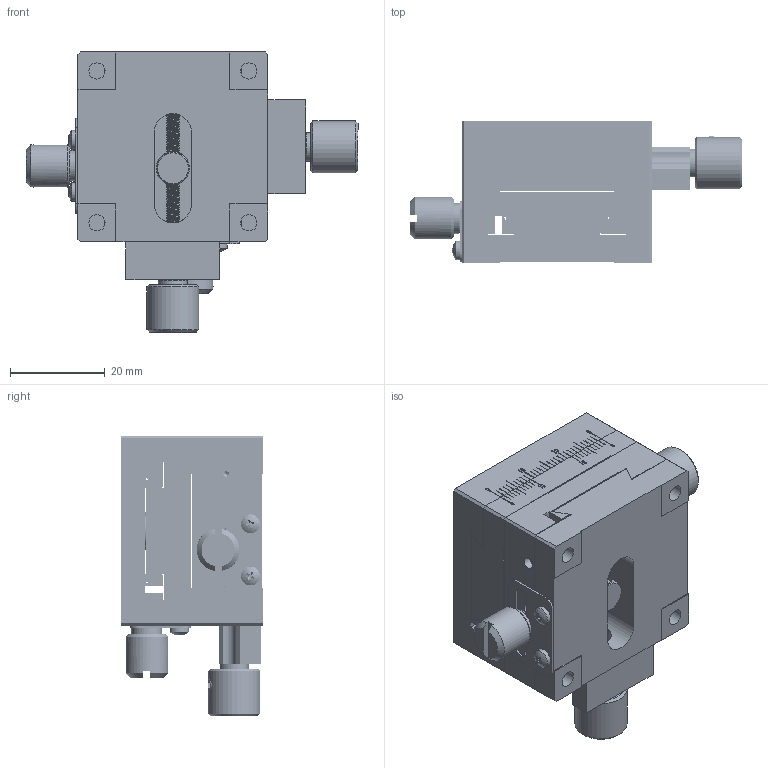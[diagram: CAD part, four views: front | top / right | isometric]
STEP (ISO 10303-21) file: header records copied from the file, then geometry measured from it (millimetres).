
FILE_DESCRIPTION (( 'STEP AP203' ), '1' );
FILE_NAME ('BFB40.STEP', '2024-07-31T03:06:51', ( 'Windows User' ), ( 'P R C' ), 'SwSTEP 2.0', 'SolidWorks 2024', '' );
FILE_SCHEMA (( 'CONFIG_CONTROL_DESIGN' ));
Products named in the file (1): BFB40
Bounding box: 69.95 x 30 x 59 mm (x, y, z)
Volume: 47159 mm3; surface area: 31365.9 mm2
Topology: 30 solids, 30 shells, 1380 faces, 3616 edges, 2372 vertices
Faces by surface type: plane 930, cylinder 176, bspline 174, cone 92, torus 4, sphere 4
Full cylindrical faces by diameter (mm): 1.6 x12, 2 x8, 2.05 x6, 2.4 x4, 2.5 x30, 2.7 x4, 2.9 x2, 3 x4, 3.4 x8, 3.8 x4, 4 x10, 4.1 x2, 4.3 x4, 4.5 x2, 4.6 x4, 4.7 x2, 6 x4, 6.094 x2, 6.5 x10, 6.9 x2, 7 x2, 9 x2, 11 x2
Entity records: 85045 total; most frequent: CARTESIAN_POINT 54073, ORIENTED_EDGE 6656, DIRECTION 5308, EDGE_CURVE 3328, VERTEX_POINT 2302, LINE 1966, VECTOR 1966, EDGE_LOOP 1782
